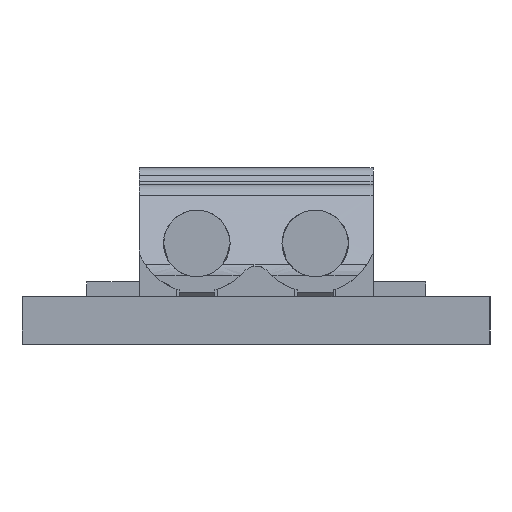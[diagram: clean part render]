
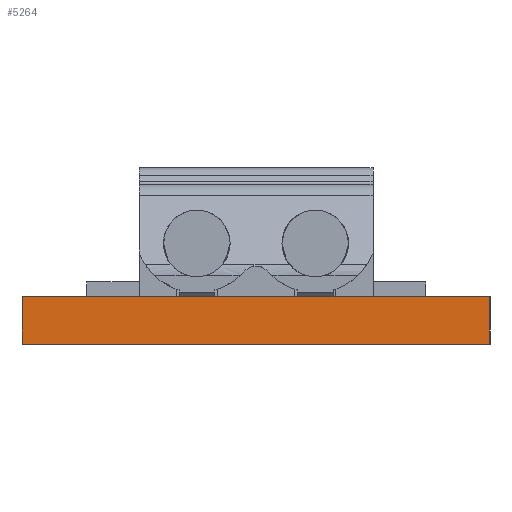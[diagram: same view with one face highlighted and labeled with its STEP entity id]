
A CAD part, left-side view. The second image highlights one B-rep face of the part: STEP entity #5264.
In plain terms, the highlighted free-form (B-spline) face has degree [3, 3] with [4, 4] control points.
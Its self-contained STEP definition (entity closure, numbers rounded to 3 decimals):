
#73=DIRECTION('',(0.,-1.,0.));
#74=VECTOR('',#73,1.2);
#75=CARTESIAN_POINT('',(0.,6.5,1.6));
#76=LINE('',#75,#74);
#81=DIRECTION('',(0.,0.,1.));
#82=VECTOR('',#81,1.6);
#83=CARTESIAN_POINT('',(0.,0.,0.));
#84=LINE('',#83,#82);
#88=DIRECTION('',(0.,-1.,0.));
#89=VECTOR('',#88,1.2);
#90=CARTESIAN_POINT('',(0.,10.5,1.6));
#91=LINE('',#90,#89);
#1190=DIRECTION('',(0.,1.,0.));
#1191=VECTOR('',#1190,2.8);
#1192=CARTESIAN_POINT('',(0.,6.5,1.6));
#1193=LINE('',#1192,#1191);
#1218=DIRECTION('',(0.,1.,0.));
#1219=VECTOR('',#1218,5.302);
#1220=CARTESIAN_POINT('',(0.,10.5,1.6));
#1221=LINE('',#1220,#1219);
#1246=DIRECTION('',(0.,1.,0.));
#1247=VECTOR('',#1246,5.3);
#1248=CARTESIAN_POINT('',(0.,0.,1.6));
#1249=LINE('',#1248,#1247);
#1344=DIRECTION('',(0.,1.,0.));
#1345=VECTOR('',#1344,15.802);
#1346=CARTESIAN_POINT('',(0.,0.,0.));
#1347=LINE('',#1346,#1345);
#1437=DIRECTION('',(0.,0.,1.));
#1438=VECTOR('',#1437,1.6);
#1439=CARTESIAN_POINT('',(0.,15.802,0.));
#1440=LINE('',#1439,#1438);
#4418=CARTESIAN_POINT('',(0.,0.,0.));
#4419=CARTESIAN_POINT('',(0.,0.,1.6));
#4420=VERTEX_POINT('',#4418);
#4421=VERTEX_POINT('',#4419);
#4426=CARTESIAN_POINT('',(0.,15.802,0.));
#4427=CARTESIAN_POINT('',(0.,15.802,1.6));
#4428=VERTEX_POINT('',#4426);
#4429=VERTEX_POINT('',#4427);
#5130=CARTESIAN_POINT('',(0.,6.5,1.6));
#5131=CARTESIAN_POINT('',(0.,5.3,1.6));
#5132=VERTEX_POINT('',#5130);
#5133=VERTEX_POINT('',#5131);
#5134=CARTESIAN_POINT('',(0.,10.5,1.6));
#5135=CARTESIAN_POINT('',(0.,9.3,1.6));
#5136=VERTEX_POINT('',#5134);
#5137=VERTEX_POINT('',#5135);
#5230=CARTESIAN_POINT('',(0.,16.118,-0.12));
#5231=CARTESIAN_POINT('',(0.,16.118,0.493));
#5232=CARTESIAN_POINT('',(0.,16.118,1.107));
#5233=CARTESIAN_POINT('',(0.,16.118,1.72));
#5234=CARTESIAN_POINT('',(0.,10.64,-0.12));
#5235=CARTESIAN_POINT('',(0.,10.64,0.493));
#5236=CARTESIAN_POINT('',(0.,10.64,1.107));
#5237=CARTESIAN_POINT('',(0.,10.64,1.72));
#5238=CARTESIAN_POINT('',(0.,5.162,-0.12));
#5239=CARTESIAN_POINT('',(0.,5.162,0.493));
#5240=CARTESIAN_POINT('',(0.,5.162,1.107));
#5241=CARTESIAN_POINT('',(0.,5.162,1.72));
#5242=CARTESIAN_POINT('',(0.,-0.316,-0.12));
#5243=CARTESIAN_POINT('',(0.,-0.316,0.493));
#5244=CARTESIAN_POINT('',(0.,-0.316,1.107));
#5245=CARTESIAN_POINT('',(0.,-0.316,1.72));
#5246=B_SPLINE_SURFACE_WITH_KNOTS('',3,3,((#5230,#5231,#5232,#5233),(#5234,
#5235,#5236,#5237),(#5238,#5239,#5240,#5241),(#5242,#5243,#5244,#5245)),
.UNSPECIFIED.,.F.,.F.,.F.,(4,4),(4,4),(-0.316,16.118),(
-1.72,0.12),.UNSPECIFIED.);
#5248=ORIENTED_EDGE('',*,*,#5247,.T.);
#5250=ORIENTED_EDGE('',*,*,#5249,.F.);
#5251=ORIENTED_EDGE('',*,*,#5219,.F.);
#5253=ORIENTED_EDGE('',*,*,#5252,.T.);
#5255=ORIENTED_EDGE('',*,*,#5254,.T.);
#5257=ORIENTED_EDGE('',*,*,#5256,.F.);
#5259=ORIENTED_EDGE('',*,*,#5258,.T.);
#5261=ORIENTED_EDGE('',*,*,#5260,.F.);
#5262=EDGE_LOOP('',(#5248,#5250,#5251,#5253,#5255,#5257,#5259,#5261));
#5263=FACE_OUTER_BOUND('',#5262,.F.);
#5219=EDGE_CURVE('',#4420,#4421,#84,.T.);
#5247=EDGE_CURVE('',#5132,#5133,#76,.T.);
#5249=EDGE_CURVE('',#4421,#5133,#1249,.T.);
#5252=EDGE_CURVE('',#4420,#4428,#1347,.T.);
#5254=EDGE_CURVE('',#4428,#4429,#1440,.T.);
#5256=EDGE_CURVE('',#5136,#4429,#1221,.T.);
#5258=EDGE_CURVE('',#5136,#5137,#91,.T.);
#5260=EDGE_CURVE('',#5132,#5137,#1193,.T.);
#5264=ADVANCED_FACE('',(#5263),#5246,.T.);
